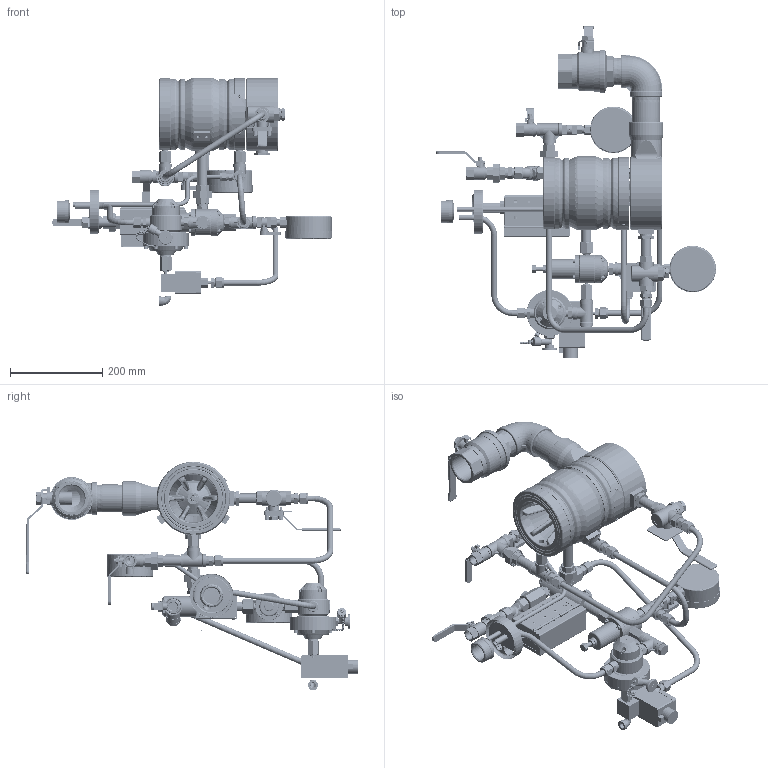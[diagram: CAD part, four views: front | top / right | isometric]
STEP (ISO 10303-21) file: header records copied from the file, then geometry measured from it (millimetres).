
FILE_DESCRIPTION(/* description */ (''),/* implementation_level */ '2;1');
FILE_NAME(/* name */ '799DX-04CR05 FM Trim 4in.stp',/* time_stamp */ '2024-10-13T11:30:26+03:00',/* author */ ('alex'),/* organization */ (''),/* preprocessor_version */ 'ST-DEVELOPER v20',/* originating_system */ 'Autodesk Inventor 2024',/* authorisation */ '');
FILE_SCHEMA (('AUTOMOTIVE_DESIGN { 1 0 10303 214 3 1 1 }'));
Products named in the file (1): 799DX-04CR05 FM Trim 4in 
Bounding box: 606.26 x 718.3 x 494.7 mm (x, y, z)
Volume: 5673165.5 mm3; surface area: 1644688.6 mm2
Topology: 11 solids, 90 shells, 6219 faces, 15501 edges, 9845 vertices
Faces by surface type: plane 2913, cone 1310, cylinder 1200, bspline 539, torus 231, sphere 26
Full cylindrical faces by diameter (mm): 1.2 x10, 2 x8, 2.487 x4, 3 x3, 3.242 x1, 4 x17, 4.1 x2, 4.134 x23, 4.2 x6, 4.5 x1, 4.978 x4, 5 x48, 5.2 x20, 5.25 x2, 5.5 x5, 5.8 x4, 6 x7, 6.33 x4, 6.4 x4, 6.5 x2, 6.6 x2, 6.604 x1, 6.88 x2, 7 x10, 7.036 x3, 7.3 x1, 7.5 x1, 7.515 x4, 7.6 x4, 8 x6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
Entity records: 211477 total; most frequent: CARTESIAN_POINT 63841, ORIENTED_EDGE 30680, DIRECTION 28027, EDGE_CURVE 15340, AXIS2_PLACEMENT_3D 10601, VERTEX_POINT 9788, EDGE_LOOP 7105, LINE 6825
